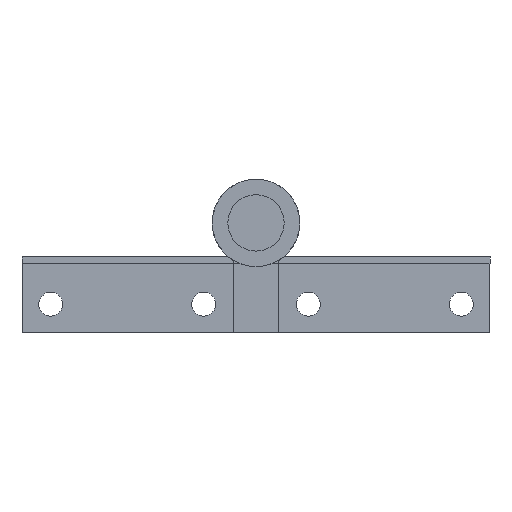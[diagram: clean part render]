
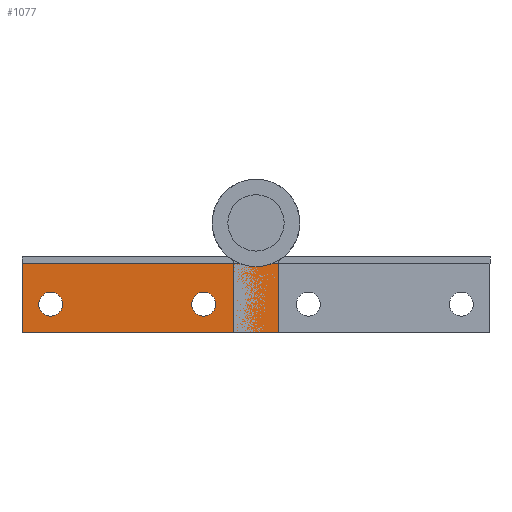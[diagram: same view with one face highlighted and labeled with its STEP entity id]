
A CAD part, front view. The second image highlights one B-rep face of the part: STEP entity #1077.
In plain terms, the highlighted planar face has unit normal (0, -1, 0).
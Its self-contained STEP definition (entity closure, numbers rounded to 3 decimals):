
#93 = PLANE ( 'NONE',  #1961 ) ;
#94 = CARTESIAN_POINT ( 'NONE',  ( 9.15, 423.2, -23. ) ) ;
#95 = DIRECTION ( 'NONE',  ( 0., 1., 0. ) ) ;
#96 = DIRECTION ( 'NONE',  ( 1., 0., 0. ) ) ;
#251 = CARTESIAN_POINT ( 'NONE',  ( 9.15, 423.2, -23. ) ) ;
#258 = DIRECTION ( 'NONE',  ( -1., 0., 0. ) ) ;
#340 = CARTESIAN_POINT ( 'NONE',  ( -10.95, 423.2, -17. ) ) ;
#342 = DIRECTION ( 'NONE',  ( 0., 1., 0. ) ) ;
#343 = DIRECTION ( 'NONE',  ( 1., 0., 0. ) ) ;
#356 = CARTESIAN_POINT ( 'NONE',  ( -10.95, 423.2, -17. ) ) ;
#368 = DIRECTION ( 'NONE',  ( 0., 1., 0. ) ) ;
#369 = DIRECTION ( 'NONE',  ( 1., 0., 0. ) ) ;
#393 = CARTESIAN_POINT ( 'NONE',  ( 4.75, 423.2, -23. ) ) ;
#394 = DIRECTION ( 'NONE',  ( 0., 0., -1. ) ) ;
#432 = CARTESIAN_POINT ( 'NONE',  ( 9.15, 423.2, -8.5 ) ) ;
#438 = DIRECTION ( 'NONE',  ( -1., 0., 0. ) ) ;
#443 = CARTESIAN_POINT ( 'NONE',  ( -42.95, 423.2, -17. ) ) ;
#464 = DIRECTION ( 'NONE',  ( 0., 1., 0. ) ) ;
#465 = DIRECTION ( 'NONE',  ( 1., 0., 0. ) ) ;
#493 = CARTESIAN_POINT ( 'NONE',  ( -42.95, 423.2, -17. ) ) ;
#502 = DIRECTION ( 'NONE',  ( 0., 1., 0. ) ) ;
#503 = DIRECTION ( 'NONE',  ( 1., 0., 0. ) ) ;
#581 = CARTESIAN_POINT ( 'NONE',  ( -48.95, 423.2, -23. ) ) ;
#582 = DIRECTION ( 'NONE',  ( 0., 0., -1. ) ) ;
#664 = EDGE_LOOP ( 'NONE', ( #1727, #1728 ) ) ;
#666 = EDGE_LOOP ( 'NONE', ( #1729, #1731 ) ) ;
#667 = EDGE_LOOP ( 'NONE', ( #1732, #1734, #1735, #1736 ) ) ;
#713 = AXIS2_PLACEMENT_3D ( 'NONE', #443, #464, #465 ) ;
#725 = VERTEX_POINT ( 'NONE', #763 ) ;
#726 = VERTEX_POINT ( 'NONE', #890 ) ;
#763 = CARTESIAN_POINT ( 'NONE',  ( -13.45, 423.2, -17. ) ) ;
#771 = VERTEX_POINT ( 'NONE', #885 ) ;
#772 = VERTEX_POINT ( 'NONE', #884 ) ;
#858 = CARTESIAN_POINT ( 'NONE',  ( 4.75, 423.2, -23. ) ) ;
#859 = CARTESIAN_POINT ( 'NONE',  ( 4.75, 423.2, -8.5 ) ) ;
#882 = CARTESIAN_POINT ( 'NONE',  ( -48.95, 423.2, -8.5 ) ) ;
#883 = CARTESIAN_POINT ( 'NONE',  ( -48.95, 423.2, -23. ) ) ;
#884 = CARTESIAN_POINT ( 'NONE',  ( -40.45, 423.2, -17. ) ) ;
#885 = CARTESIAN_POINT ( 'NONE',  ( -45.45, 423.2, -17. ) ) ;
#890 = CARTESIAN_POINT ( 'NONE',  ( -8.45, 423.2, -17. ) ) ;
#892 = VERTEX_POINT ( 'NONE', #883 ) ;
#893 = VERTEX_POINT ( 'NONE', #882 ) ;
#916 = VERTEX_POINT ( 'NONE', #859 ) ;
#917 = VERTEX_POINT ( 'NONE', #858 ) ;
#1077 = ADVANCED_FACE ( 'NONE', ( #1501, #1500, #1495 ), #93, .F. ) ;
#1129 = AXIS2_PLACEMENT_3D ( 'NONE', #493, #502, #503 ) ;
#1144 = VECTOR ( 'NONE', #582, 1000. ) ;
#1147 = LINE ( 'NONE', #581, #1144 ) ;
#1188 = CIRCLE ( 'NONE', #1129, 2.5 ) ;
#1210 = CIRCLE ( 'NONE', #713, 2.5 ) ;
#1237 = LINE ( 'NONE', #432, #1241 ) ;
#1241 = VECTOR ( 'NONE', #438, 1000. ) ;
#1270 = VECTOR ( 'NONE', #394, 1000. ) ;
#1272 = LINE ( 'NONE', #393, #1270 ) ;
#1290 = CIRCLE ( 'NONE', #1861, 2.5 ) ;
#1312 = CIRCLE ( 'NONE', #2054, 2.5 ) ;
#1399 = LINE ( 'NONE', #251, #1404 ) ;
#1404 = VECTOR ( 'NONE', #258, 1000. ) ;
#1495 = FACE_OUTER_BOUND ( 'NONE', #667, .T. ) ;
#1500 = FACE_BOUND ( 'NONE', #666, .T. ) ;
#1501 = FACE_BOUND ( 'NONE', #664, .T. ) ;
#1727 = ORIENTED_EDGE ( 'NONE', *, *, #1936, .T. ) ;
#1728 = ORIENTED_EDGE ( 'NONE', *, *, #1947, .T. ) ;
#1729 = ORIENTED_EDGE ( 'NONE', *, *, #2014, .T. ) ;
#1731 = ORIENTED_EDGE ( 'NONE', *, *, #2040, .T. ) ;
#1732 = ORIENTED_EDGE ( 'NONE', *, *, #2002, .T. ) ;
#1734 = ORIENTED_EDGE ( 'NONE', *, *, #2101, .T. ) ;
#1735 = ORIENTED_EDGE ( 'NONE', *, *, #1870, .F. ) ;
#1736 = ORIENTED_EDGE ( 'NONE', *, *, #1970, .F. ) ;
#1861 = AXIS2_PLACEMENT_3D ( 'NONE', #356, #368, #369 ) ;
#1870 = EDGE_CURVE ( 'NONE', #917, #892, #1399, .T. ) ;
#1936 = EDGE_CURVE ( 'NONE', #725, #726, #1312, .T. ) ;
#1947 = EDGE_CURVE ( 'NONE', #726, #725, #1290, .T. ) ;
#1961 = AXIS2_PLACEMENT_3D ( 'NONE', #94, #95, #96 ) ;
#1970 = EDGE_CURVE ( 'NONE', #916, #917, #1272, .T. ) ;
#2002 = EDGE_CURVE ( 'NONE', #916, #893, #1237, .T. ) ;
#2014 = EDGE_CURVE ( 'NONE', #771, #772, #1210, .T. ) ;
#2040 = EDGE_CURVE ( 'NONE', #772, #771, #1188, .T. ) ;
#2054 = AXIS2_PLACEMENT_3D ( 'NONE', #340, #342, #343 ) ;
#2101 = EDGE_CURVE ( 'NONE', #893, #892, #1147, .T. ) ;
